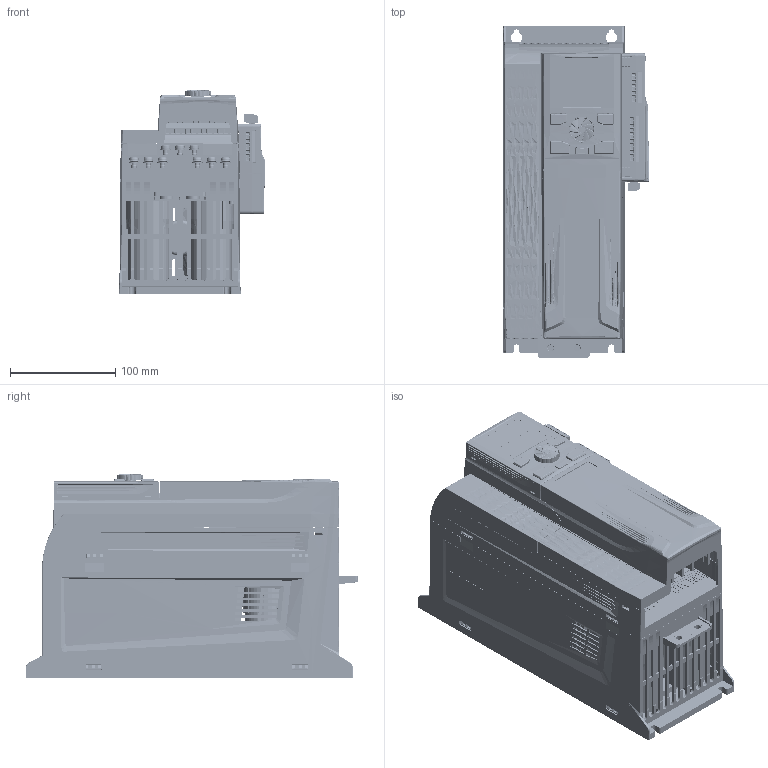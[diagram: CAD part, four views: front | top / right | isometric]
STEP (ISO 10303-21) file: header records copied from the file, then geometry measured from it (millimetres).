
FILE_DESCRIPTION(/* description */ (''),/* implementation_level */ '2;1');
FILE_NAME(/* name */ 'CA700-4T11-3D.stp',/* time_stamp */ '2025-03-27T09:37:42+08:00',/* author */ (''),/* organization */ (''),/* preprocessor_version */ 'ST-DEVELOPER v16',/* originating_system */ 'SIEMENS PLM Software NX 10.0',/* authorisation */ '');
FILE_SCHEMA (('AP203_CONFIGURATION_CONTROLLED_3D_DESIGN_OF_MECHANICAL_PARTS_AND_ASSEMBLIES_MIM_LF { 1 0 10303 403 2 1 2}'));
Length unit declared in the file: millimetre
Products named in the file (1): it0DFC7D6Fre1r
Bounding box: 137.96 x 315 x 193.31 mm (x, y, z)
Volume: 1753737 mm3; surface area: 1553958.1 mm2
Topology: 152 solids, 213 shells, 26416 faces, 71470 edges, 46970 vertices
Faces by surface type: plane 18107, cylinder 4115, extrusion 1600, bspline 1387, cone 788, torus 342, sphere 75, revolution 2
Full cylindrical faces by diameter (mm): 0.5 x57, 1.5 x1, 1.75 x8, 2.25 x2, 2.5 x8, 3.3 x11, 3.4 x7, 3.5 x11, 3.65 x2, 4.2 x17, 4.3 x1, 4.5 x6, 4.51 x6, 5 x7, 5.3 x6, 6 x15, 6.35 x1, 8 x1, 8.5 x2, 8.72 x2, 10 x7, 10.08 x1, 11 x2, 11.2 x1, 20 x1, 32.1 x4, 41.5 x4
Entity records: 960316 total; most frequent: CARTESIAN_POINT 289873, ORIENTED_EDGE 141858, DIRECTION 121833, EDGE_CURVE 71048, VECTOR 52795, LINE 51195, VERTEX_POINT 46834, AXIS2_PLACEMENT_3D 34518
